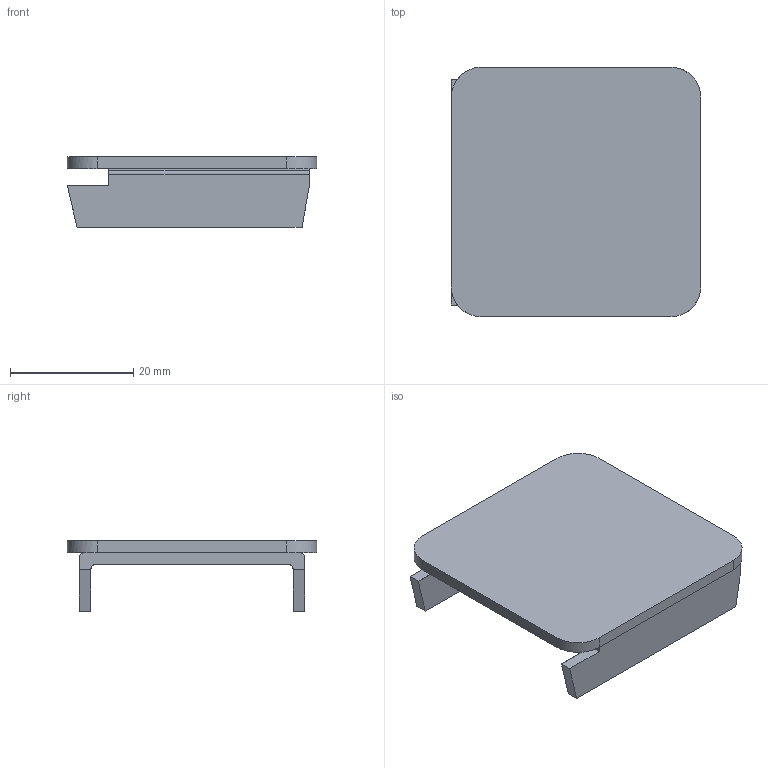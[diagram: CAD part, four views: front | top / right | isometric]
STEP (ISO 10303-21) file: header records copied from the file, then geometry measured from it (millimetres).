
FILE_DESCRIPTION(('TurboCAD Mac Pro'),'Build 980');
FILE_NAME('P2280.stp',' ',(''),(''),'ACIS Interop','IMSI','TurboCAD Mac Pro BY IMSI, INCORPORATED');
FILE_SCHEMA(('automotive_design'));
Length unit declared in the file: inch
Products named in the file (1): 1
Bounding box: 40.48 x 40.48 x 11.43 mm (x, y, z)
Volume: 6450.3 mm3; surface area: 5095.8 mm2
Topology: 1 solids, 1 shells, 35 faces, 96 edges, 64 vertices
Faces by surface type: plane 23, cylinder 8, bspline 4
Entity records: 1728 total; most frequent: CARTESIAN_POINT 248, ORIENTED_EDGE 192, DIRECTION 172, EDGE_CURVE 96, STYLED_ITEM 94, PRESENTATION_STYLE_ASSIGNMENT 94, COLOUR_RGB 94, LINE 68
